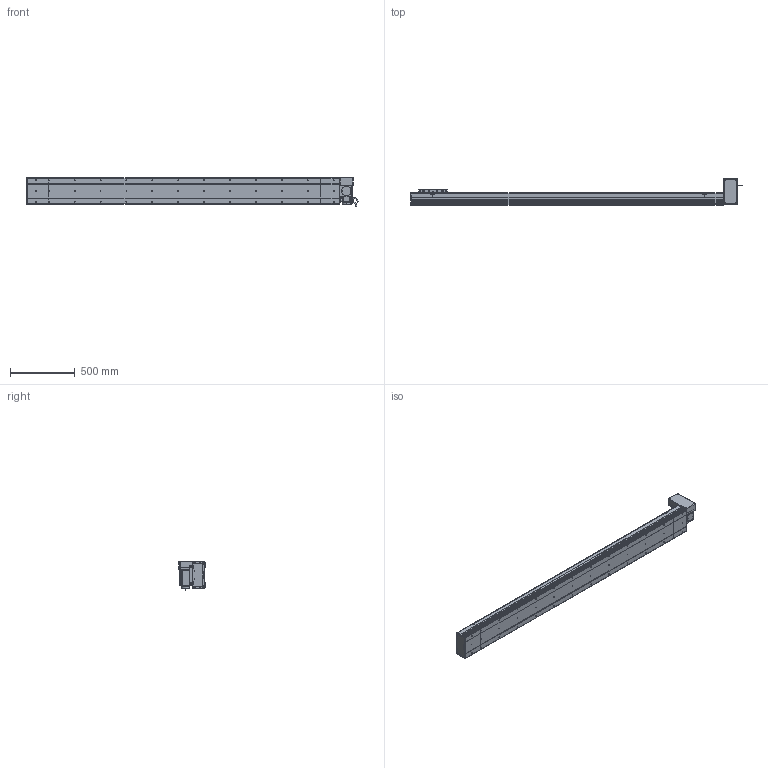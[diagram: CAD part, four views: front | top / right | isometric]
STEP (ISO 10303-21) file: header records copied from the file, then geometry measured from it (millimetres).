
FILE_DESCRIPTION (( 'STEP AP214' ), '1' );
FILE_NAME ('D20 CBH LT S2100.STEP', '2010-06-30T10:00:52', ( 'Conseil Régional Haute-Normandie' ), ( 'Conseil Régional Haute-Normandie' ), 'SwSTEP 2.0', 'SolidWorks 2010', '' );
FILE_SCHEMA (( 'AUTOMOTIVE_DESIGN' ));
Length unit declared in the file: millimetre
Products named in the file (31): Glissiere_Default; Tail D20+100_Default; Couvercle S2100_Default; Corp D20 S2100_Default; Chariot D20_Default; Couvercle_Default; Plaque De Serrage D20_Default; Plaque de Bout Tail D20_Default; vis M5 L15_Default; Corp Tail D20+100_Default; Corp S2100_Default; D20 CBH LT S2100; Moteur motionking 90BLDC125A-640; Support moteur LT_Default; Rondelle Cache D20 LT_Default; Head LT_Default; Support Chariot D20_Default; vis M5 L47_Default; Conecteur_Default; Conecteur2_Default; corps 90BLDC125A-640; Couvercle LT_Default; Cache Support Moteur LT_Default; Plaque De Serrage D20 LT_Default; codeur 90BLDC125-640; avant 90BLDC125A-640; vis M5 L30_Default; Corp Tail D20 LT_Default; ecrou_Default; Plaque de Bout Head D20 LT_Default
Assembly tree (66 placements, depth 4):
  D20 CBH LT S2100
    Tail D20+100_Default
      Plaque De Serrage D20_Default
      vis M5 L15_Default  x6
      Plaque de Bout Tail D20_Default
      Couvercle_Default
      Corp Tail D20+100_Default
    Head LT_Default
      Plaque de Bout Head D20 LT_Default
      vis M5 L30_Default  x4
      ecrou_Default  x4
      Rondelle Cache D20 LT_Default  x3
      Cache Support Moteur LT_Default
      vis M5 L15_Default  x12
      Moteur motionking 90BLDC125A-640
        avant 90BLDC125A-640
        Conecteur_Default
        codeur 90BLDC125-640
        corps 90BLDC125A-640
        Conecteur2_Default
      vis M5 L47_Default  x4
      Support moteur LT_Default
      Couvercle LT_Default
      Plaque De Serrage D20 LT_Default
      Corp Tail D20 LT_Default
    Chariot D20_Default
      Glissiere_Default
      vis M5 L15_Default  x8
      Chariot D20_Default
      Support Chariot D20_Default
    Corp D20 S2100_Default
      Corp S2100_Default
      Couvercle S2100_Default
Bounding box: 2563.45 x 202.5 x 229.7 mm (x, y, z)
Volume: 17478464.7 mm3; surface area: 3423601.4 mm2
Topology: 103 solids, 103 shells, 3795 faces, 9512 edges, 6184 vertices
Faces by surface type: plane 2104, bspline 806, cylinder 722, torus 91, cone 68, sphere 4
Entity records: 161278 total; most frequent: CARTESIAN_POINT 83335, ORIENTED_EDGE 15492, DIRECTION 11736, EDGE_CURVE 7746, VERTEX_POINT 5128, LINE 4970, VECTOR 4970, AXIS2_PLACEMENT_3D 3383
